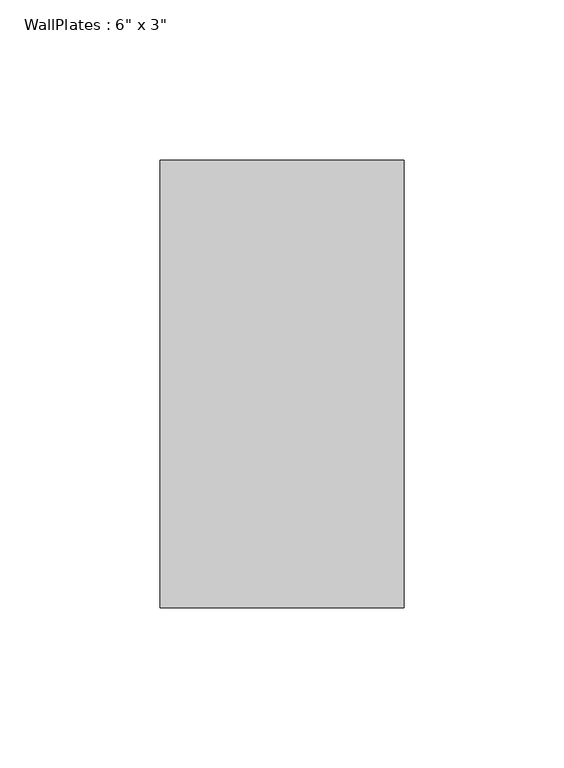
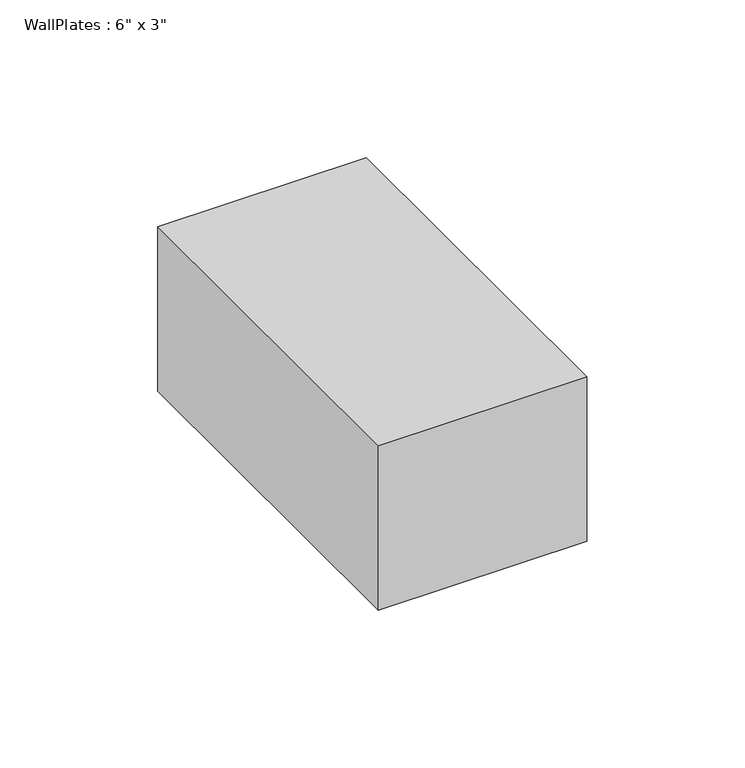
"""IFC4 building model written with IfcOpenShell, lengths in millimetres: beam geometry."""

from ifc_helpers import new_model, si_unit, frame, origin, place, context, project, spatial, polyline, outline, extrude, source, transform, mapped, element, save


def beam_d29d678d(model_context):
    return source(origin(), model_context, "Body", "SweptSolid", [
        extrude(outline(polyline([(-38.095, -69.85), (-38.095, 69.85), (38.095, 69.85), (38.095, -69.85), (-38.095, -69.85)])), frame((0.0, 0.0, -31.75), z_axis=(0.0, 0.0, 1.0), x_axis=(1.0, 0.0, 0.0)), (0.0, 0.0, 1.0), 63.5),
    ])


if __name__ == "__main__":
    model = new_model("IFC4")
    model_context = context("Model", 3, world=origin())
    ifc_project = project(units=[si_unit("LENGTHUNIT", "METRE", prefix="MILLI")], contexts=[model_context])
    site = spatial("IfcSite", under=ifc_project)
    building = spatial("IfcBuilding", under=site)
    placement = place(None, origin())
    beam_shape = beam_d29d678d(model_context)
    element("IfcBeam", 1, ObjectType="WallPlates : 6\" x 3\"", at=placement, inside=building, context=model_context, shape_type="MappedRepresentation", body=[
        mapped(beam_shape, transform((0.0, 0.0, 0.0), x_axis=(1.0, 0.0, 0.0), y_axis=(0.0, 1.0, 0.0), z_axis=(0.0, 0.0, 1.0))),
    ])
    save(model, "model.ifc")
